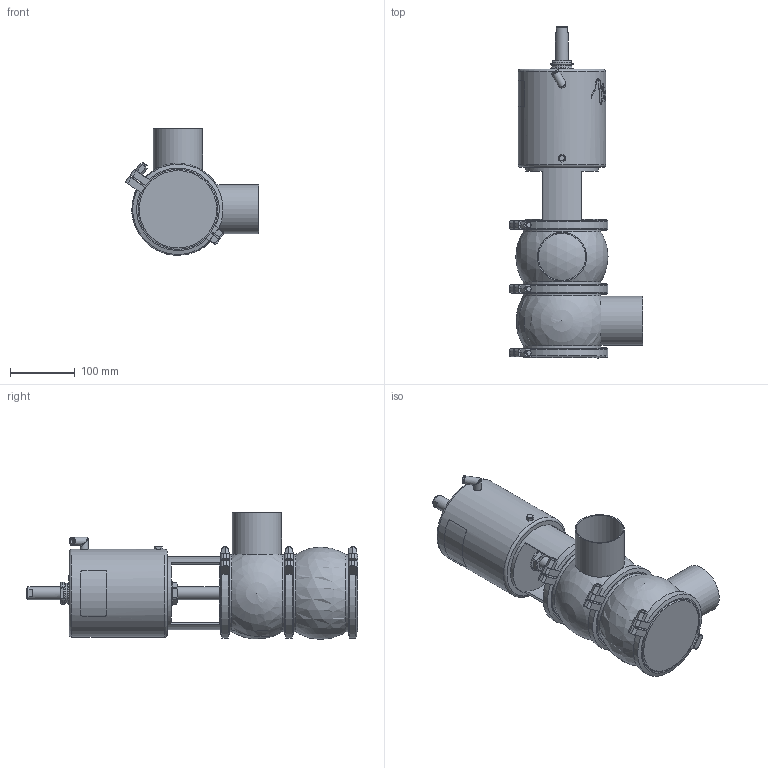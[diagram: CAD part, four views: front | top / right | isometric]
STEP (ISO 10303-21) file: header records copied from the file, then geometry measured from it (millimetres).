
FILE_DESCRIPTION (( 'STEP AP214' ), '1' );
FILE_NAME ('INNOVA M D W OD 3 T3 AS NC_10.241.16.0010.STEP', '2024-08-07T07:58:06', ( '' ), ( '' ), 'SwSTEP 2.0', 'SolidWorks 2023', '' );
FILE_SCHEMA (( 'AUTOMOTIVE_DESIGN' ));
Length unit declared in the file: millimetre
Products named in the file (6): 10.241.15.0001_DIN 080; 10.240.15.0006_OD 3"; 10.240.15.0010_DN 080; 10.240.15.0001_DN 080; INNOVA M D W OD 3 T3 AS NC_10.241.16.0010; 10.240.15.0014_T3 AS P180
Assembly tree (8 placements, depth 2):
  INNOVA M D W OD 3 T3 AS NC_10.241.16.0010
    10.240.15.0006_OD 3"  x2
    10.240.15.0010_DN 080
    10.240.15.0014_T3 AS P180
    10.240.15.0001_DN 080  x3
    10.241.15.0001_DIN 080
Bounding box: 206.43 x 514.63 x 196.5 mm (x, y, z)
Volume: 5484959.2 mm3; surface area: 482835.5 mm2
Topology: 9 solids, 9 shells, 459 faces, 1211 edges, 789 vertices
Faces by surface type: plane 225, cylinder 110, bspline 80, cone 36, sphere 4, torus 4
Full cylindrical faces by diameter (mm): 6.15 x1, 8 x7, 8.5 x1, 10.5 x1, 12.5 x3, 16 x1, 20 x2, 31 x1, 34.5 x2, 36.5 x1, 72.9 x2, 76.2 x2, 113 x1, 120 x5, 132 x6, 136 x1
Entity records: 20380 total; most frequent: CARTESIAN_POINT 11271, ORIENTED_EDGE 1592, DIRECTION 1205, EDGE_CURVE 796, VERTEX_POINT 547, AXIS2_PLACEMENT_3D 458, EDGE_LOOP 399, FACE_OUTER_BOUND 360
